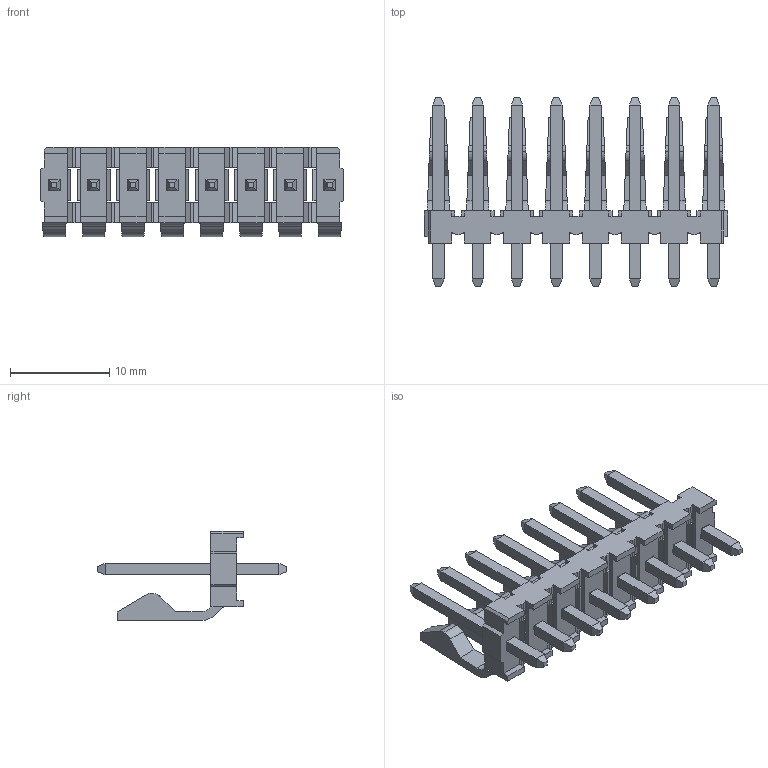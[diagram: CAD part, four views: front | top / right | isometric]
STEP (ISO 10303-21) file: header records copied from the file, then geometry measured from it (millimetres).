
FILE_DESCRIPTION(('STEP AP242'),'1');
FILE_NAME('0026481085.stp','2024-12-30T19:44:41',('TraceParts'),('TraceParts S.A.'),'Spatial InterOp 3D',' ',' ');
FILE_SCHEMA(('AP242_MANAGED_MODEL_BASED_3D_ENGINEERING_MIM_LF {1 0 10303 442 1 1 4}'));
Length unit declared in the file: millimetre
Products named in the file (1): 0026481085_1
Bounding box: 30.56 x 19.05 x 9.02 mm (x, y, z)
Volume: 928.5 mm3; surface area: 2254.5 mm2
Topology: 1 solids, 1 shells, 516 faces, 1414 edges, 926 vertices
Faces by surface type: plane 476, cylinder 40
Entity records: 16132 total; most frequent: CARTESIAN_POINT 3210, ORIENTED_EDGE 2796, DIRECTION 2386, EDGE_CURVE 1398, LINE 1318, VECTOR 1318, VERTEX_POINT 894, EDGE_LOOP 540
